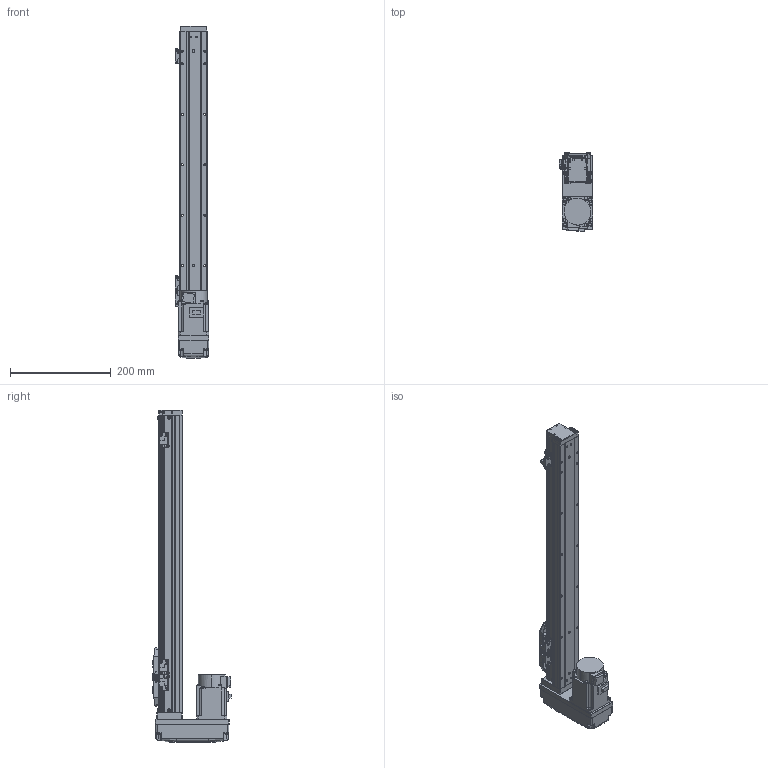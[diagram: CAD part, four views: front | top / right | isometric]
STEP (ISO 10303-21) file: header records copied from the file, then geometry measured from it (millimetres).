
FILE_DESCRIPTION (( 'STEP AP203' ), '1' );
FILE_NAME ('GTH5-450-BM-M20-C4.step', '2022-12-16T03:29:10', ( '微软用户' ), ( '微软中国' ), 'SwSTEP 2.0', 'SolidWorks 2020', '' );
FILE_SCHEMA (( 'CONFIG_CONTROL_DESIGN' ));
Length unit declared in the file: millimetre
Products named in the file (19): GTH50-024; GTH5-450-BM-M20-C4; GBT 70.1-M4×16; GBT 70.1-M2.5×6; GTH50-003; GTH50-028; GTH50-013; GTH50-022-1; GTH50-006; GTH50-023; CTHA60-015-4_CTHA60-015-5; GTH50-004; GBT 70.1-M3℅6; GTH80-026; BTH-M3X5X6; GBT 70.3-M3℅6; GBT96.1-2002 3×0.8; 三菱伺服电机[HG-KN23J-S100]; GTH50-001_450
Assembly tree (57 placements, depth 2):
  GTH5-450-BM-M20-C4
    GTH50-006
    GTH50-004
    GBT 70.3-M3℅6  x4
    BTH-M3X5X6  x8
    GTH50-001_450
    GBT 70.1-M4×16  x8
    GTH50-003
    GTH50-013
    GTH50-023  x3
    GBT 70.1-M3℅6  x12
    GBT96.1-2002 3×0.8  x6
    GTH50-024  x3
    GBT 70.1-M2.5×6  x2
    GTH50-028  x2
    GTH50-022-1
    CTHA60-015-4_CTHA60-015-5
    GTH80-026
    三菱伺服电机[HG-KN23J-S100]
Bounding box: 67.3 x 155.9 x 658 mm (x, y, z)
Volume: 1950609.3 mm3; surface area: 293777.7 mm2
Topology: 59 solids, 59 shells, 2139 faces, 4991 edges, 3080 vertices
Faces by surface type: plane 1103, cylinder 624, cone 212, torus 158, bspline 34, sphere 8
Entity records: 41728 total; most frequent: CARTESIAN_POINT 10076, DIRECTION 5935, ORIENTED_EDGE 5896, EDGE_CURVE 2948, AXIS2_PLACEMENT_3D 2071, VERTEX_POINT 1882, LINE 1793, VECTOR 1793
